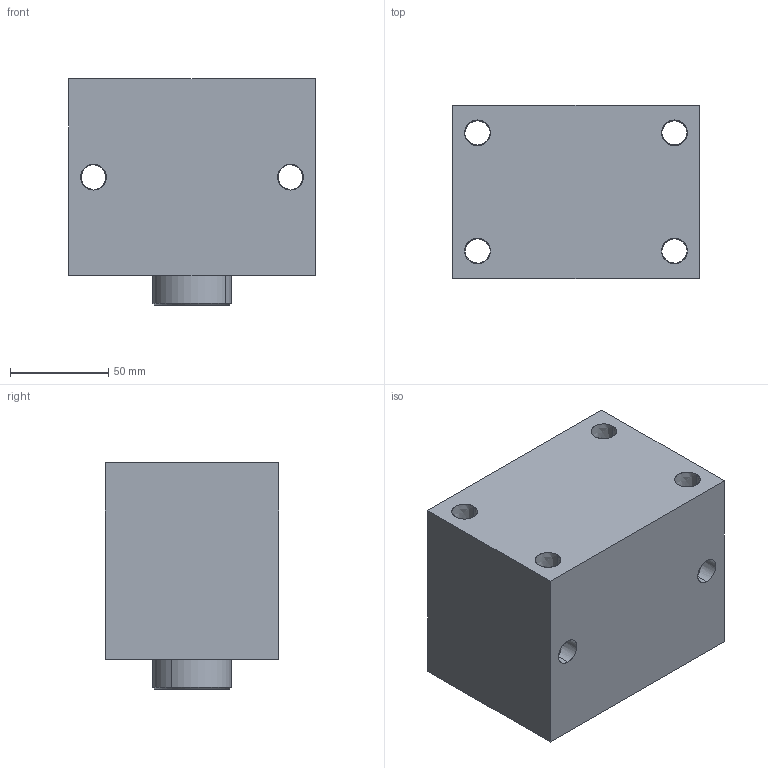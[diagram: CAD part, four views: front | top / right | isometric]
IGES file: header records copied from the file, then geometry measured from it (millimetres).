
Start section: SolidWorks IGES file using analytic representation for surfaces
Global section: file name: D:\karuppas\Clasp\3D model\Block cylinder B01C-Female thread\B01C-625F\Block cylinder B01C-625F.IGS; native system: SolidWorks 2017; preprocessor: SolidWorks 2017; author: pc; date: 220710.000355; units: millimetre
Bounding box: 125 x 88 x 115 mm (x, y, z)
Surface area: 111269.3 mm2 (no closed solid volume)
Topology: 0 solids, 0 shells, 342 faces, 5300 edges, 5294 vertices
Faces by surface type: bspline 290, revolution 52
